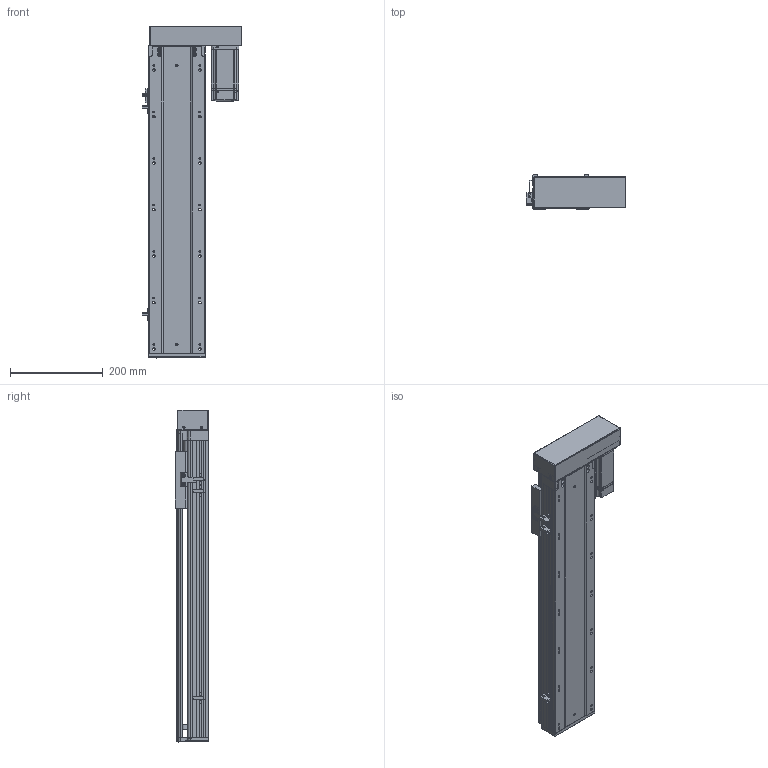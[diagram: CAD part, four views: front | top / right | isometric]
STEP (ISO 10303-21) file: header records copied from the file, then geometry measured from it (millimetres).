
FILE_DESCRIPTION (( 'STEP AP203' ), '1' );
FILE_NAME ('RY120-L1620-300-RK.SLDASM_450.step', '2021-02-22T02:29:47', ( '盈信电脑' ), ( '东莞市道滘镇水果街19号' ), 'SwSTEP 2.0', 'SolidWorks 2012', '' );
FILE_SCHEMA (( 'CONFIG_CONTROL_DESIGN' ));
Length unit declared in the file: millimetre
Products named in the file (14): RY120-L1620-300-RK.SLDASM_450; RY120蛌殏萇儂欶; 15; 侂狟400W侜督萇儂; RY120酘殏萇儂假蚾啣; 滅袉蝶18-10; RY120转拆电端丝杆支撑座; RY120外置感应片(140共用）; 滅袉蝶18-24; 覜茼ん672; RY120綴裔啣; RY120臏賑輸; RY120-300-RK蛌殏倰第菁釱_450; RY120-300-RK蛌殏倰第奻裔啣_450
Assembly tree (16 placements, depth 3):
  RY120-L1620-300-RK.SLDASM_450
    RY120-300-RK蛌殏倰第菁釱_450
    RY120-300-RK蛌殏倰第奻裔啣_450
    RY120臏賑輸
    RY120綴裔啣
    覜茼ん672  x3
    滅袉蝶18-10
    滅袉蝶18-24  x2
    RY120外置感应片(140共用）
    RY120转拆电端丝杆支撑座
    RY120酘殏萇儂假蚾啣
    侂狟400W侜督萇儂
      15
    RY120蛌殏萇儂欶
Bounding box: 214.4 x 73 x 714 mm (x, y, z)
Volume: 2382718.8 mm3; surface area: 838300.1 mm2
Topology: 16 solids, 16 shells, 2384 faces, 6555 edges, 4210 vertices
Faces by surface type: plane 1216, cylinder 872, cone 191, bspline 105
Entity records: 78882 total; most frequent: CARTESIAN_POINT 22179, ORIENTED_EDGE 11854, DIRECTION 10915, EDGE_CURVE 5927, VERTEX_POINT 3878, LINE 3701, VECTOR 3701, AXIS2_PLACEMENT_3D 3607
